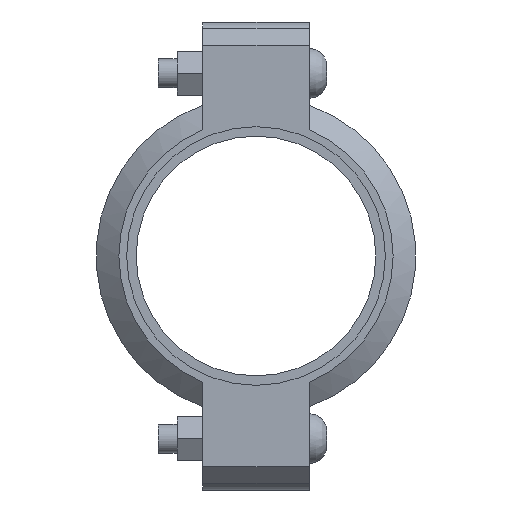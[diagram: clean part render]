
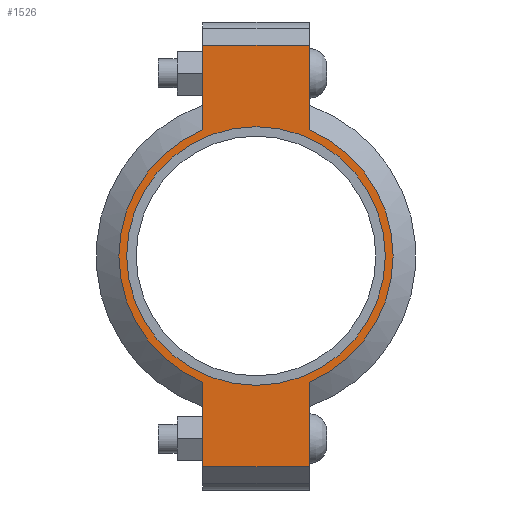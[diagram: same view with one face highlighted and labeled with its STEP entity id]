
A CAD part, left-side view. The second image highlights one B-rep face of the part: STEP entity #1526.
In plain terms, the highlighted planar face has unit normal (-1, 0, 0) as drawn and (0, 0, 1) by its records, which use the part's own axes.
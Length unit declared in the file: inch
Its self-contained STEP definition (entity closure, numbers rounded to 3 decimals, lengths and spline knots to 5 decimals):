
#150=LINE('',#2663,#243);
#158=LINE('',#2699,#251);
#165=LINE('',#2720,#258);
#174=LINE('',#2752,#267);
#175=LINE('',#2756,#268);
#176=LINE('',#2758,#269);
#243=VECTOR('',#2175,0.3937);
#251=VECTOR('',#2191,0.3937);
#258=VECTOR('',#2210,0.3937);
#267=VECTOR('',#2235,0.3937);
#268=VECTOR('',#2240,0.3937);
#269=VECTOR('',#2241,0.3937);
#325=FACE_BOUND('',#503,.T.);
#397=FACE_OUTER_BOUND('',#502,.T.);
#502=EDGE_LOOP('',(#1267,#1268,#1269,#1270,#1271,#1272,#1273,#1274));
#503=EDGE_LOOP('',(#1275));
#575=CIRCLE('',#1745,2.7815);
#601=CIRCLE('',#1804,2.95);
#602=CIRCLE('',#1805,2.95);
#667=VERTEX_POINT('',#2479);
#710=VERTEX_POINT('',#2660);
#711=VERTEX_POINT('',#2662);
#722=VERTEX_POINT('',#2694);
#723=VERTEX_POINT('',#2698);
#730=VERTEX_POINT('',#2717);
#731=VERTEX_POINT('',#2719);
#741=VERTEX_POINT('',#2755);
#742=VERTEX_POINT('',#2757);
#823=EDGE_CURVE('',#667,#667,#575,.T.);
#884=EDGE_CURVE('',#711,#710,#150,.T.);
#898=EDGE_CURVE('',#723,#722,#158,.T.);
#908=EDGE_CURVE('',#731,#730,#165,.T.);
#923=EDGE_CURVE('',#723,#710,#174,.T.);
#924=EDGE_CURVE('',#722,#731,#601,.T.);
#925=EDGE_CURVE('',#741,#730,#175,.T.);
#926=EDGE_CURVE('',#741,#742,#176,.T.);
#927=EDGE_CURVE('',#742,#711,#602,.T.);
#1267=ORIENTED_EDGE('',*,*,#923,.F.);
#1268=ORIENTED_EDGE('',*,*,#898,.T.);
#1269=ORIENTED_EDGE('',*,*,#924,.T.);
#1270=ORIENTED_EDGE('',*,*,#908,.T.);
#1271=ORIENTED_EDGE('',*,*,#925,.F.);
#1272=ORIENTED_EDGE('',*,*,#926,.T.);
#1273=ORIENTED_EDGE('',*,*,#927,.T.);
#1274=ORIENTED_EDGE('',*,*,#884,.T.);
#1275=ORIENTED_EDGE('',*,*,#823,.T.);
#1368=PLANE('',#1803);
#1526=ADVANCED_FACE('',(#397,#325),#1368,.T.);
#1745=AXIS2_PLACEMENT_3D('',#2481,#2051,#2052);
#1803=AXIS2_PLACEMENT_3D('',#2753,#2236,#2237);
#1804=AXIS2_PLACEMENT_3D('',#2754,#2238,#2239);
#1805=AXIS2_PLACEMENT_3D('',#2759,#2242,#2243);
#2051=DIRECTION('center_axis',(0.,0.,-1.));
#2052=DIRECTION('ref_axis',(-1.,0.,0.));
#2175=DIRECTION('',(-1.,0.,0.));
#2191=DIRECTION('',(1.,0.,0.));
#2210=DIRECTION('',(1.,0.,0.));
#2235=DIRECTION('',(0.,1.,0.));
#2236=DIRECTION('center_axis',(0.,0.,1.));
#2237=DIRECTION('ref_axis',(1.,0.,0.));
#2238=DIRECTION('center_axis',(0.,0.,1.));
#2239=DIRECTION('ref_axis',(-1.,0.,0.));
#2240=DIRECTION('',(0.,-1.,0.));
#2241=DIRECTION('',(-1.,0.,0.));
#2242=DIRECTION('center_axis',(0.,0.,1.));
#2243=DIRECTION('ref_axis',(-1.,0.,0.));
#2479=CARTESIAN_POINT('',(2.7815,0.,1.065));
#2481=CARTESIAN_POINT('Origin',(0.,0.,1.065));
#2660=CARTESIAN_POINT('',(-4.535,1.15,1.065));
#2662=CARTESIAN_POINT('',(-2.71662,1.15,1.065));
#2663=CARTESIAN_POINT('',(-5.035,1.15,1.065));
#2694=CARTESIAN_POINT('',(-2.71662,-1.15,1.065));
#2698=CARTESIAN_POINT('',(-4.535,-1.15,1.065));
#2699=CARTESIAN_POINT('',(5.035,-1.15,1.065));
#2717=CARTESIAN_POINT('',(4.535,-1.15,1.065));
#2719=CARTESIAN_POINT('',(2.71662,-1.15,1.065));
#2720=CARTESIAN_POINT('',(5.035,-1.15,1.065));
#2752=CARTESIAN_POINT('',(-4.535,0.575,1.065));
#2753=CARTESIAN_POINT('Origin',(0.,0.,1.065));
#2754=CARTESIAN_POINT('Origin',(0.,0.,1.065));
#2755=CARTESIAN_POINT('',(4.535,1.15,1.065));
#2756=CARTESIAN_POINT('',(4.535,-0.575,1.065));
#2757=CARTESIAN_POINT('',(2.71662,1.15,1.065));
#2758=CARTESIAN_POINT('',(-5.035,1.15,1.065));
#2759=CARTESIAN_POINT('Origin',(0.,0.,1.065));
